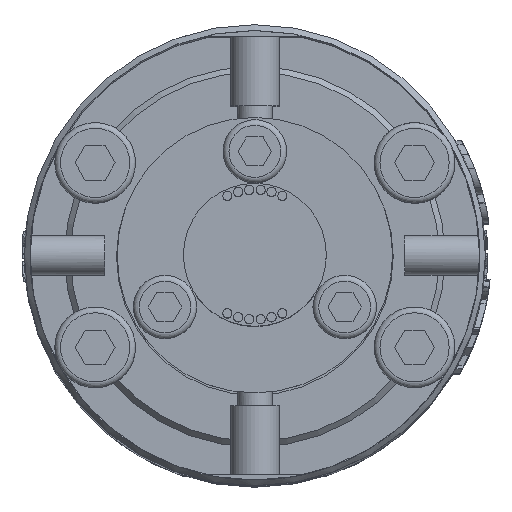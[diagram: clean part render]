
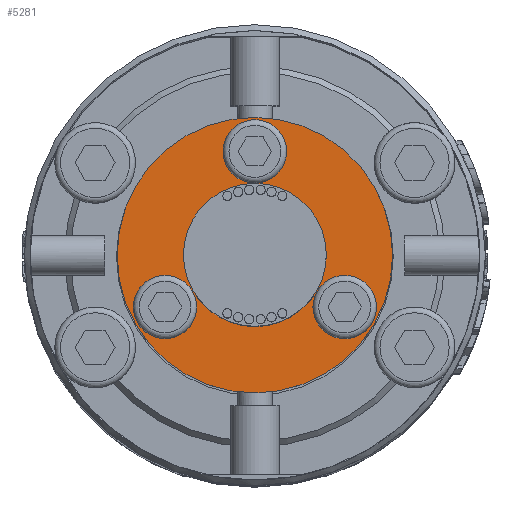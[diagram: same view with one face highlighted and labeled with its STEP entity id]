
A CAD part, top view. The second image highlights one B-rep face of the part: STEP entity #5281.
In plain terms, the highlighted planar face has unit normal (0, 0, 1).
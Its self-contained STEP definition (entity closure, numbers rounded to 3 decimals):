
#605=FACE_BOUND('',#8870,.T.);
#606=FACE_BOUND('',#8871,.T.);
#607=FACE_BOUND('',#8872,.T.);
#608=FACE_BOUND('',#8873,.T.);
#609=FACE_BOUND('',#8874,.T.);
#1025=CIRCLE('',#26363,6.2);
#1026=CIRCLE('',#26365,2.75);
#1027=CIRCLE('',#26366,2.75);
#1028=CIRCLE('',#26367,2.75);
#1029=CIRCLE('',#26368,11.95);
#5281=ADVANCED_FACE('',(#605,#606,#607,#608,#609),#5995,.T.);
#5995=PLANE('',#26369);
#8870=EDGE_LOOP('',(#16116));
#8871=EDGE_LOOP('',(#16117));
#8872=EDGE_LOOP('',(#16118));
#8873=EDGE_LOOP('',(#16119));
#8874=EDGE_LOOP('',(#16120));
#16116=ORIENTED_EDGE('',*,*,#22304,.F.);
#16117=ORIENTED_EDGE('',*,*,#22305,.F.);
#16118=ORIENTED_EDGE('',*,*,#22306,.F.);
#16119=ORIENTED_EDGE('',*,*,#22303,.F.);
#16120=ORIENTED_EDGE('',*,*,#22307,.F.);
#18707=VERTEX_POINT('',#51482);
#18708=VERTEX_POINT('',#51485);
#18709=VERTEX_POINT('',#51487);
#18710=VERTEX_POINT('',#51489);
#18711=VERTEX_POINT('',#51491);
#22303=EDGE_CURVE('',#18707,#18707,#1025,.T.);
#22304=EDGE_CURVE('',#18708,#18708,#1026,.T.);
#22305=EDGE_CURVE('',#18709,#18709,#1027,.T.);
#22306=EDGE_CURVE('',#18710,#18710,#1028,.T.);
#22307=EDGE_CURVE('',#18711,#18711,#1029,.T.);
#26363=AXIS2_PLACEMENT_3D('',#51481,#30144,#30145);
#26365=AXIS2_PLACEMENT_3D('',#51484,#30148,#30149);
#26366=AXIS2_PLACEMENT_3D('',#51486,#30150,#30151);
#26367=AXIS2_PLACEMENT_3D('',#51488,#30152,#30153);
#26368=AXIS2_PLACEMENT_3D('',#51490,#30154,#30155);
#26369=AXIS2_PLACEMENT_3D('',#51492,#30156,#30157);
#30144=DIRECTION('',(0.,0.,1.));
#30145=DIRECTION('',(0.,1.,0.));
#30148=DIRECTION('',(0.,0.,1.));
#30149=DIRECTION('',(1.,0.,0.));
#30150=DIRECTION('',(0.,0.,1.));
#30151=DIRECTION('',(-0.5,0.866,0.));
#30152=DIRECTION('',(0.,0.,1.));
#30153=DIRECTION('',(-0.5,-0.866,0.));
#30154=DIRECTION('',(0.,0.,-1.));
#30155=DIRECTION('',(0.,1.,0.));
#30156=DIRECTION('',(0.,0.,1.));
#30157=DIRECTION('',(0.,1.,0.));
#51481=CARTESIAN_POINT('',(0.,0.,95.5));
#51482=CARTESIAN_POINT('',(0.,6.2,95.5));
#51484=CARTESIAN_POINT('',(0.,9.,95.5));
#51485=CARTESIAN_POINT('',(2.75,9.,95.5));
#51486=CARTESIAN_POINT('',(-7.794,-4.5,95.5));
#51487=CARTESIAN_POINT('',(-9.169,-2.118,95.5));
#51488=CARTESIAN_POINT('',(7.794,-4.5,95.5));
#51489=CARTESIAN_POINT('',(6.419,-6.882,95.5));
#51490=CARTESIAN_POINT('',(0.,0.,95.5));
#51491=CARTESIAN_POINT('',(0.,11.95,95.5));
#51492=CARTESIAN_POINT('',(0.,0.,95.5));
